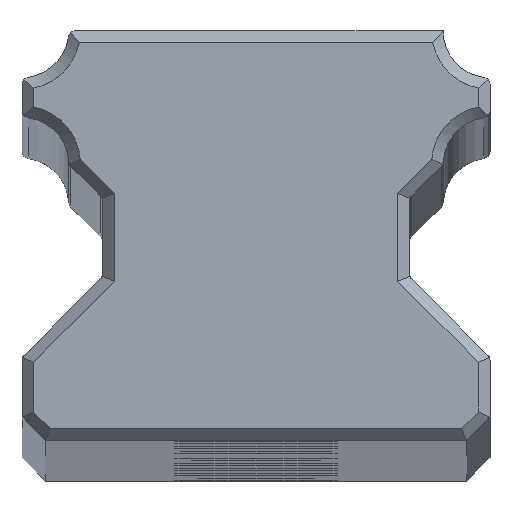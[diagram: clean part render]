
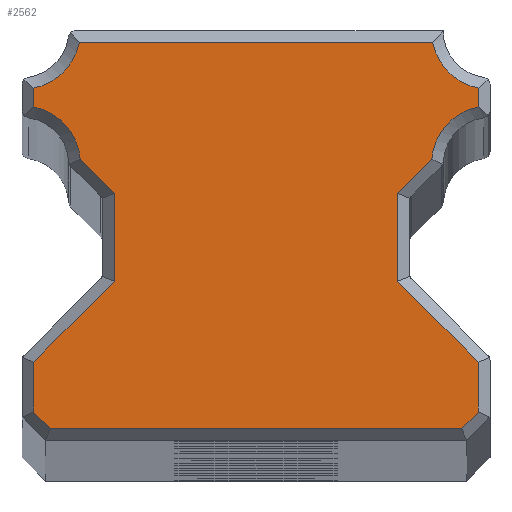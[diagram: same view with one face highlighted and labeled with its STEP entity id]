
A CAD part, top view. The second image highlights one B-rep face of the part: STEP entity #2562.
In plain terms, the highlighted planar face has unit normal (0, 0, 1).
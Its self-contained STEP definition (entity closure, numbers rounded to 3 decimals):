
#69=CIRCLE('',#2718,2.5);
#73=CIRCLE('',#2764,2.5);
#92=CIRCLE('',#2797,2.5);
#93=CIRCLE('',#2800,2.5);
#304=PLANE('',#2804);
#387=FACE_OUTER_BOUND('',#558,.T.);
#558=EDGE_LOOP('',(#2001,#2002,#2003,#2004,#2005,#2006,#2007,#2008,#2009,
#2010,#2011,#2012,#2013,#2014,#2015,#2016,#2017,#2018));
#711=LINE('',#3918,#886);
#720=LINE('',#3986,#895);
#729=LINE('',#4067,#904);
#756=LINE('',#4188,#931);
#763=LINE('',#4301,#938);
#765=LINE('',#4310,#940);
#770=LINE('',#4320,#945);
#774=LINE('',#4327,#949);
#776=LINE('',#4332,#951);
#778=LINE('',#4335,#953);
#780=LINE('',#4338,#955);
#782=LINE('',#4342,#957);
#784=LINE('',#4345,#959);
#785=LINE('',#4350,#960);
#886=VECTOR('',#3068,10.);
#895=VECTOR('',#3093,10.);
#904=VECTOR('',#3134,10.);
#931=VECTOR('',#3221,10.);
#938=VECTOR('',#3290,10.);
#940=VECTOR('',#3294,10.);
#945=VECTOR('',#3301,10.);
#949=VECTOR('',#3307,10.);
#951=VECTOR('',#3311,10.);
#953=VECTOR('',#3315,10.);
#955=VECTOR('',#3319,10.);
#957=VECTOR('',#3323,10.);
#959=VECTOR('',#3327,10.);
#960=VECTOR('',#3336,10.);
#1106=VERTEX_POINT('',#3915);
#1107=VERTEX_POINT('',#3917);
#1121=VERTEX_POINT('',#3980);
#1122=VERTEX_POINT('',#3985);
#1130=VERTEX_POINT('',#4034);
#1138=VERTEX_POINT('',#4066);
#1173=VERTEX_POINT('',#4182);
#1174=VERTEX_POINT('',#4187);
#1182=VERTEX_POINT('',#4238);
#1205=VERTEX_POINT('',#4300);
#1206=VERTEX_POINT('',#4307);
#1207=VERTEX_POINT('',#4309);
#1210=VERTEX_POINT('',#4317);
#1211=VERTEX_POINT('',#4319);
#1213=VERTEX_POINT('',#4325);
#1214=VERTEX_POINT('',#4329);
#1215=VERTEX_POINT('',#4331);
#1216=VERTEX_POINT('',#4341);
#1355=EDGE_CURVE('',#1106,#1107,#711,.T.);
#1374=EDGE_CURVE('',#1121,#1122,#720,.T.);
#1386=EDGE_CURVE('',#1122,#1130,#69,.T.);
#1398=EDGE_CURVE('',#1130,#1138,#729,.T.);
#1447=EDGE_CURVE('',#1173,#1174,#756,.T.);
#1459=EDGE_CURVE('',#1174,#1182,#73,.T.);
#1485=EDGE_CURVE('',#1182,#1205,#763,.T.);
#1488=EDGE_CURVE('',#1206,#1207,#765,.T.);
#1493=EDGE_CURVE('',#1210,#1211,#770,.T.);
#1497=EDGE_CURVE('',#1213,#1210,#774,.T.);
#1499=EDGE_CURVE('',#1214,#1215,#776,.T.);
#1501=EDGE_CURVE('',#1215,#1213,#778,.T.);
#1503=EDGE_CURVE('',#1138,#1214,#780,.T.);
#1505=EDGE_CURVE('',#1211,#1216,#782,.T.);
#1507=EDGE_CURVE('',#1216,#1206,#784,.T.);
#1509=EDGE_CURVE('',#1205,#1121,#92,.T.);
#1510=EDGE_CURVE('',#1207,#1106,#785,.T.);
#1511=EDGE_CURVE('',#1107,#1173,#93,.T.);
#2001=ORIENTED_EDGE('',*,*,#1499,.F.);
#2002=ORIENTED_EDGE('',*,*,#1503,.F.);
#2003=ORIENTED_EDGE('',*,*,#1398,.F.);
#2004=ORIENTED_EDGE('',*,*,#1386,.F.);
#2005=ORIENTED_EDGE('',*,*,#1374,.F.);
#2006=ORIENTED_EDGE('',*,*,#1509,.F.);
#2007=ORIENTED_EDGE('',*,*,#1485,.F.);
#2008=ORIENTED_EDGE('',*,*,#1459,.F.);
#2009=ORIENTED_EDGE('',*,*,#1447,.F.);
#2010=ORIENTED_EDGE('',*,*,#1511,.F.);
#2011=ORIENTED_EDGE('',*,*,#1355,.F.);
#2012=ORIENTED_EDGE('',*,*,#1510,.F.);
#2013=ORIENTED_EDGE('',*,*,#1488,.F.);
#2014=ORIENTED_EDGE('',*,*,#1507,.F.);
#2015=ORIENTED_EDGE('',*,*,#1505,.F.);
#2016=ORIENTED_EDGE('',*,*,#1493,.F.);
#2017=ORIENTED_EDGE('',*,*,#1497,.F.);
#2018=ORIENTED_EDGE('',*,*,#1501,.F.);
#2562=ADVANCED_FACE('',(#387),#304,.T.);
#2718=AXIS2_PLACEMENT_3D('',#4035,#3112,#3113);
#2764=AXIS2_PLACEMENT_3D('',#4239,#3240,#3241);
#2797=AXIS2_PLACEMENT_3D('',#4348,#3332,#3333);
#2800=AXIS2_PLACEMENT_3D('',#4352,#3339,#3340);
#2804=AXIS2_PLACEMENT_3D('',#4356,#3347,#3348);
#3068=DIRECTION('',(-0.707,0.707,0.));
#3093=DIRECTION('',(0.,-1.,0.));
#3112=DIRECTION('center_axis',(0.,0.,1.));
#3113=DIRECTION('ref_axis',(0.,1.,0.));
#3134=DIRECTION('',(-0.707,-0.707,0.));
#3221=DIRECTION('',(0.,1.,0.));
#3240=DIRECTION('center_axis',(0.,0.,1.));
#3241=DIRECTION('ref_axis',(1.,0.,0.));
#3290=DIRECTION('',(1.,0.,0.));
#3294=DIRECTION('',(0.707,0.707,0.));
#3301=DIRECTION('',(-1.,0.,0.));
#3307=DIRECTION('',(-0.707,-0.707,0.));
#3311=DIRECTION('',(0.707,-0.707,0.));
#3315=DIRECTION('',(0.,-1.,0.));
#3319=DIRECTION('',(0.,-1.,0.));
#3323=DIRECTION('',(-0.707,0.707,0.));
#3327=DIRECTION('',(0.,1.,0.));
#3332=DIRECTION('center_axis',(0.,0.,1.));
#3333=DIRECTION('ref_axis',(-1.,0.,0.));
#3336=DIRECTION('',(0.,1.,0.));
#3339=DIRECTION('center_axis',(0.,0.,1.));
#3340=DIRECTION('ref_axis',(0.,1.,0.));
#3347=DIRECTION('center_axis',(0.,0.,1.));
#3348=DIRECTION('ref_axis',(1.,0.,0.));
#3915=CARTESIAN_POINT('',(-6.05,10.557,0.));
#3917=CARTESIAN_POINT('',(-7.509,12.016,0.));
#3918=CARTESIAN_POINT('',(-3.634,8.141,0.));
#3980=CARTESIAN_POINT('',(9.5,15.051,0.));
#3985=CARTESIAN_POINT('',(9.5,14.249,0.));
#3986=CARTESIAN_POINT('',(9.5,12.125,0.));
#4034=CARTESIAN_POINT('',(7.509,12.016,0.));
#4035=CARTESIAN_POINT('Origin',(10.,11.8,0.));
#4066=CARTESIAN_POINT('',(6.05,10.557,0.));
#4067=CARTESIAN_POINT('',(6.134,10.641,0.));
#4182=CARTESIAN_POINT('',(-9.5,14.249,0.));
#4187=CARTESIAN_POINT('',(-9.5,15.051,0.));
#4188=CARTESIAN_POINT('',(-9.5,12.125,0.));
#4238=CARTESIAN_POINT('',(-7.551,17.,0.));
#4239=CARTESIAN_POINT('Origin',(-10.,17.5,0.));
#4300=CARTESIAN_POINT('',(7.551,17.,0.));
#4301=CARTESIAN_POINT('',(2.5,17.,0.));
#4307=CARTESIAN_POINT('',(-9.5,3.343,0.));
#4309=CARTESIAN_POINT('',(-6.05,6.793,0.));
#4310=CARTESIAN_POINT('',(-2.871,9.971,0.));
#4317=CARTESIAN_POINT('',(8.793,0.5,0.));
#4319=CARTESIAN_POINT('',(-8.793,0.5,0.));
#4320=CARTESIAN_POINT('',(7.,0.5,0.));
#4325=CARTESIAN_POINT('',(9.5,1.207,0.));
#4327=CARTESIAN_POINT('',(10.334,2.041,0.));
#4329=CARTESIAN_POINT('',(6.05,6.793,0.));
#4331=CARTESIAN_POINT('',(9.5,3.343,0.));
#4332=CARTESIAN_POINT('',(5.371,7.471,0.));
#4335=CARTESIAN_POINT('',(9.5,6.15,0.));
#4338=CARTESIAN_POINT('',(6.05,9.55,0.));
#4341=CARTESIAN_POINT('',(-9.5,1.207,0.));
#4342=CARTESIAN_POINT('',(-7.834,-0.459,0.));
#4345=CARTESIAN_POINT('',(-9.5,6.15,0.));
#4348=CARTESIAN_POINT('Origin',(10.,17.5,0.));
#4350=CARTESIAN_POINT('',(-6.05,9.55,0.));
#4352=CARTESIAN_POINT('Origin',(-10.,11.8,0.));
#4356=CARTESIAN_POINT('Origin',(5.,8.75,0.));
